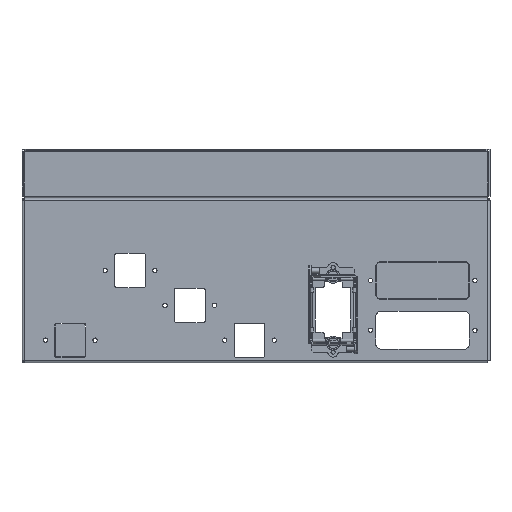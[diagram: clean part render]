
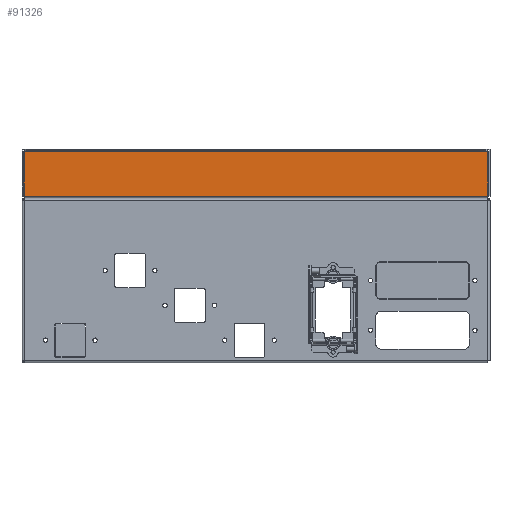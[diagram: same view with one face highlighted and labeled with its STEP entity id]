
A CAD part, top view. The second image highlights one B-rep face of the part: STEP entity #91326.
In plain terms, the highlighted planar face has unit normal (0, 0, 1).
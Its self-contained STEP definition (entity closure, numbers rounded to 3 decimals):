
#90681=CARTESIAN_POINT(' ',(-232.9,22.5,0.));
#90682=VERTEX_POINT(' ',#90681);
#90776=CARTESIAN_POINT(' ',(232.9,22.5,0.));
#90781=DIRECTION(' ',(-1.,0.,0.));
#90786=VECTOR(' ',#90781,1.);
#90791=LINE('',#90776,#90786);
#90796=CARTESIAN_POINT(' ',(232.9,22.5,0.));
#90797=VERTEX_POINT(' ',#90796);
#90801=EDGE_CURVE(' ',#90797,#90682,#90791,.T.);
#91151=CARTESIAN_POINT(' ',(-232.9,-22.5,0.));
#91152=VERTEX_POINT(' ',#91151);
#91166=CARTESIAN_POINT(' ',(-232.9,22.5,0.));
#91171=DIRECTION(' ',(0.,-1.,0.));
#91176=VECTOR(' ',#91171,1.);
#91181=LINE('',#91166,#91176);
#91186=EDGE_CURVE(' ',#90682,#91152,#91181,.T.);
#91216=DIRECTION(' ',(0.,-0.,1.));
#91221=CARTESIAN_POINT(' ',(-232.9,-22.5,0.));
#91226=DIRECTION(' ',(1.,0.,-0.));
#91231=AXIS2_PLACEMENT_3D(' ',#91221,#91216,#91226);
#91236=PLANE('NONE',#91231);
#91241=ORIENTED_EDGE(' ',*,*,#91186,.T.);
#91246=CARTESIAN_POINT(' ',(-232.9,-22.5,0.));
#91251=DIRECTION(' ',(1.,0.,0.));
#91256=VECTOR(' ',#91251,1.);
#91261=LINE('',#91246,#91256);
#91266=CARTESIAN_POINT(' ',(232.9,-22.5,0.));
#91267=VERTEX_POINT(' ',#91266);
#91271=EDGE_CURVE(' ',#91152,#91267,#91261,.T.);
#91276=ORIENTED_EDGE(' ',*,*,#91271,.T.);
#91281=CARTESIAN_POINT(' ',(232.9,-22.5,0.));
#91286=DIRECTION(' ',(0.,1.,0.));
#91291=VECTOR(' ',#91286,1.);
#91296=LINE('',#91281,#91291);
#91301=EDGE_CURVE(' ',#91267,#90797,#91296,.T.);
#91306=ORIENTED_EDGE(' ',*,*,#91301,.T.);
#91311=ORIENTED_EDGE(' ',*,*,#90801,.T.);
#91316=EDGE_LOOP(' ',(#91241,#91276,#91306,#91311));
#91321=FACE_OUTER_BOUND(' ',#91316,.T.);
#91326=ADVANCED_FACE('NONE',(#91321),#91236,.T.);
